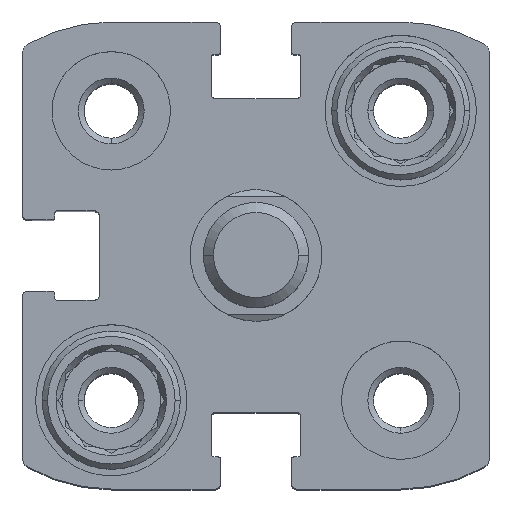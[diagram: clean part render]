
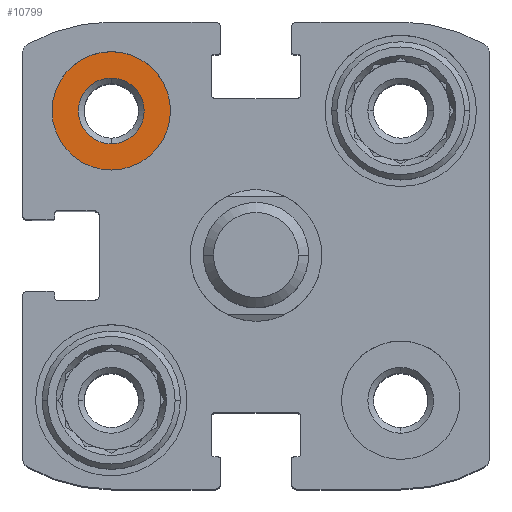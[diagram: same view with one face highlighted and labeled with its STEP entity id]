
A CAD part, top view. The second image highlights one B-rep face of the part: STEP entity #10799.
In plain terms, the highlighted planar face has unit normal (0, 0, 1).
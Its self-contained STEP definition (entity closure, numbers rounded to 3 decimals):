
#43 = CIRCLE ( 'NONE', #11139, 2.5 ) ;
#360 = CARTESIAN_POINT ( 'NONE',  ( -11., 11., -4.8 ) ) ;
#458 = VERTEX_POINT ( 'NONE', #8060 ) ;
#1341 = DIRECTION ( 'NONE',  ( 0., 0., -1. ) ) ;
#1401 = DIRECTION ( 'NONE',  ( 0., 0., 1. ) ) ;
#2055 = AXIS2_PLACEMENT_3D ( 'NONE', #3380, #1401, #3231 ) ;
#2227 = CARTESIAN_POINT ( 'NONE',  ( -11., 15.5, -4.8 ) ) ;
#2397 = DIRECTION ( 'NONE',  ( 0., 1., 0. ) ) ;
#2414 = FACE_OUTER_BOUND ( 'NONE', #7378, .T. ) ;
#3231 = DIRECTION ( 'NONE',  ( 1., 0., 0. ) ) ;
#3283 = CARTESIAN_POINT ( 'NONE',  ( -11., 11., -4.8 ) ) ;
#3380 = CARTESIAN_POINT ( 'NONE',  ( -11., 15.5, -4.8 ) ) ;
#3596 = AXIS2_PLACEMENT_3D ( 'NONE', #3283, #4237, #2397 ) ;
#3973 = CARTESIAN_POINT ( 'NONE',  ( -11., 8.5, -4.8 ) ) ;
#4136 = EDGE_CURVE ( 'NONE', #11062, #458, #10945, .T. ) ;
#4237 = DIRECTION ( 'NONE',  ( 0., 0., -1. ) ) ;
#4491 = EDGE_LOOP ( 'NONE', ( #5633, #6886 ) ) ;
#4618 = CARTESIAN_POINT ( 'NONE',  ( -11., 11., -4.8 ) ) ;
#5486 = DIRECTION ( 'NONE',  ( 0., 1., 0. ) ) ;
#5633 = ORIENTED_EDGE ( 'NONE', *, *, #4136, .T. ) ;
#6563 = PLANE ( 'NONE',  #2055 ) ;
#6757 = ORIENTED_EDGE ( 'NONE', *, *, #11138, .F. ) ;
#6886 = ORIENTED_EDGE ( 'NONE', *, *, #9530, .T. ) ;
#7378 = EDGE_LOOP ( 'NONE', ( #8817, #6757 ) ) ;
#8060 = CARTESIAN_POINT ( 'NONE',  ( -11., 13.5, -4.8 ) ) ;
#8555 = AXIS2_PLACEMENT_3D ( 'NONE', #4618, #12087, #12974 ) ;
#8573 = CIRCLE ( 'NONE', #3596, 4.5 ) ;
#8817 = ORIENTED_EDGE ( 'NONE', *, *, #10406, .F. ) ;
#9524 = CARTESIAN_POINT ( 'NONE',  ( -11., 6.5, -4.8 ) ) ;
#9530 = EDGE_CURVE ( 'NONE', #458, #11062, #43, .T. ) ;
#10370 = VERTEX_POINT ( 'NONE', #2227 ) ;
#10406 = EDGE_CURVE ( 'NONE', #10370, #12398, #11366, .T. ) ;
#10589 = CARTESIAN_POINT ( 'NONE',  ( -11., 11., -4.8 ) ) ;
#10799 = ADVANCED_FACE ( 'NONE', ( #2414, #12608 ), #6563, .T. ) ;
#10945 = CIRCLE ( 'NONE', #8555, 2.5 ) ;
#11062 = VERTEX_POINT ( 'NONE', #3973 ) ;
#11138 = EDGE_CURVE ( 'NONE', #12398, #10370, #8573, .T. ) ;
#11139 = AXIS2_PLACEMENT_3D ( 'NONE', #360, #11512, #12680 ) ;
#11366 = CIRCLE ( 'NONE', #12042, 4.5 ) ;
#11512 = DIRECTION ( 'NONE',  ( 0., 0., -1. ) ) ;
#12042 = AXIS2_PLACEMENT_3D ( 'NONE', #10589, #1341, #5486 ) ;
#12087 = DIRECTION ( 'NONE',  ( 0., 0., -1. ) ) ;
#12398 = VERTEX_POINT ( 'NONE', #9524 ) ;
#12608 = FACE_BOUND ( 'NONE', #4491, .T. ) ;
#12680 = DIRECTION ( 'NONE',  ( 0., 1., 0. ) ) ;
#12974 = DIRECTION ( 'NONE',  ( 0., 1., 0. ) ) ;
